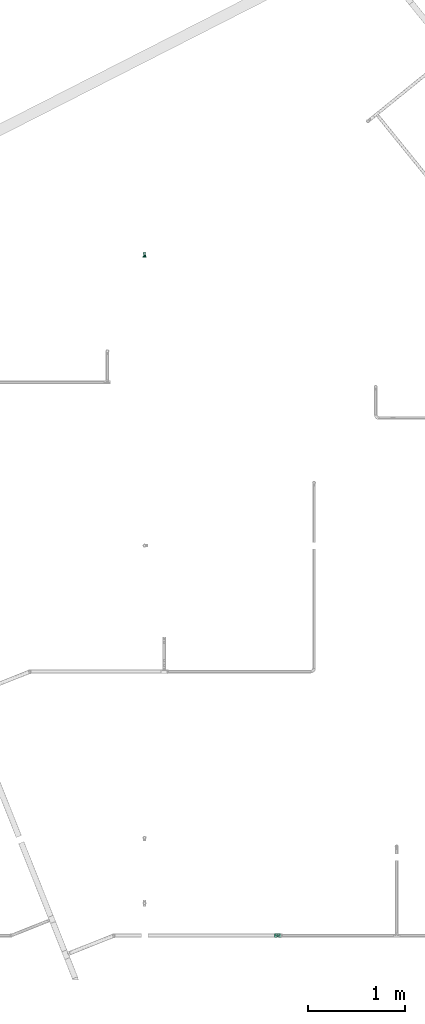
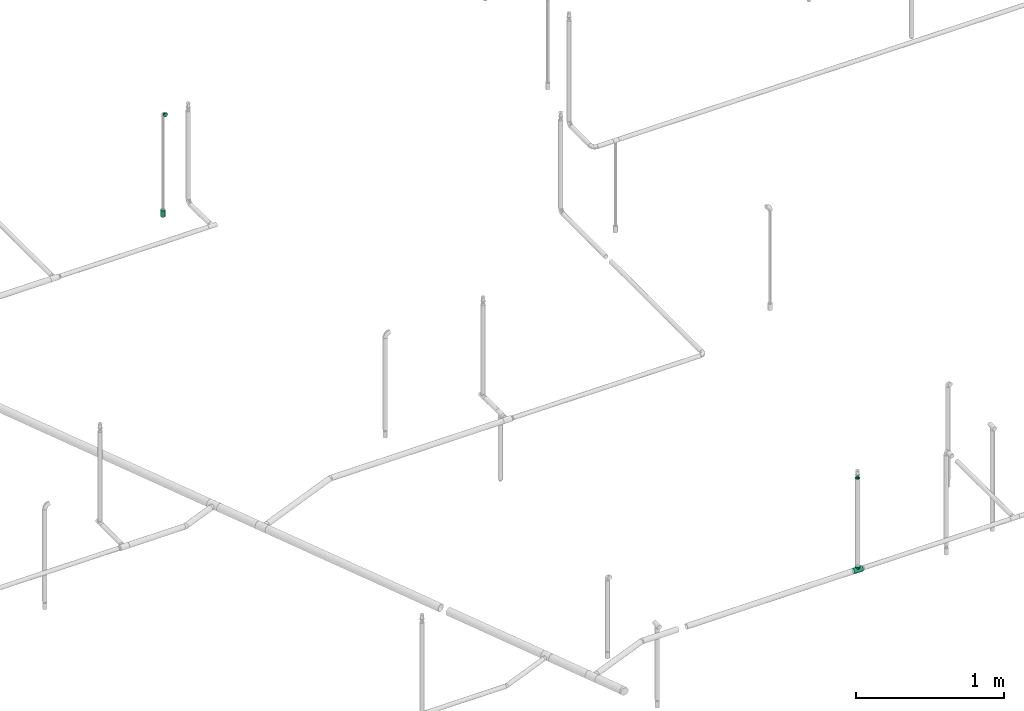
# One storey, part 49 of 94: 3 flow fittings, 1 flow terminal.
"""IFC2X3 building model written with IfcOpenShell, lengths in millimetres."""

from ifc_helpers import new_model, entity, si_unit, converted_unit, derived_unit, direction, frame, origin_with_axes, place, context, subcontext, project, spatial, open_shell, surface_model, source, transform, mapped, type_object, element, save


model = new_model("IFC2X3")

# Units and contexts
model_context = context("Model", 3, precision=0.01, world=frame((0.0, 4.29681676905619e-09, 0.0)), true_north=direction((4.01073788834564e-13, 1.0)))
plan_context = context("Plan", 3, precision=0.01, world=frame((0.0, 4.29681676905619e-09, 0.0)), true_north=direction((4.01073788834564e-13, 1.0)))
body_context = subcontext(model_context, "Body", "Model", "MODEL_VIEW")
ifc_project = project(units=[converted_unit("PLANEANGLEUNIT", "DEGREE", entity("IfcPositiveLengthMeasure", 0.0174532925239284), si_unit("PLANEANGLEUNIT", "RADIAN"), dimensions=[0, 0, 0, 0, 0, 0, 0]), si_unit("AREAUNIT", "SQUARE_METRE"), si_unit("LENGTHUNIT", "METRE", prefix="MILLI"), si_unit("MASSUNIT", "GRAM", prefix="KILO"), si_unit("POWERUNIT", "WATT"), si_unit("PRESSUREUNIT", "PASCAL", prefix="KILO"), si_unit("FORCEUNIT", "NEWTON", prefix="KILO"), si_unit("ELECTRICVOLTAGEUNIT", "VOLT"), si_unit("ELECTRICCURRENTUNIT", "AMPERE"), si_unit("THERMODYNAMICTEMPERATUREUNIT", "DEGREE_CELSIUS"), si_unit("TIMEUNIT", "SECOND"), si_unit("VOLUMEUNIT", "CUBIC_METRE"), derived_unit("LINEARVELOCITYUNIT", [(si_unit("LENGTHUNIT", "METRE"), 1), (si_unit("TIMEUNIT", "SECOND"), -1)]), derived_unit("VOLUMETRICFLOWRATEUNIT", [(si_unit("VOLUMEUNIT", "CUBIC_METRE"), 1), (si_unit("TIMEUNIT", "SECOND"), -1)]), derived_unit("THERMALTRANSMITTANCEUNIT", [(si_unit("POWERUNIT", "WATT"), 1), (si_unit("THERMODYNAMICTEMPERATUREUNIT", "KELVIN"), -1), (si_unit("AREAUNIT", "SQUARE_METRE"), -1)]), derived_unit("SOUNDPRESSUREUNIT", [(si_unit("PRESSUREUNIT", "PASCAL"), 1)])], contexts=[model_context, plan_context])

# Site, building, storey
site_placement = place(None, frame((0.0, -4.29681676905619e-09, 0.0), z_axis=(0.0, 0.0, 1.0), x_axis=(1.0, 0.0, 0.0)))
site = spatial("IfcSite", under=ifc_project, at=site_placement, CompositionType="ELEMENT")
building_placement = place(site_placement, frame((0.0, 4.29681676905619e-09, 0.0), z_axis=(0.0, 0.0, 1.0), x_axis=(1.0, 0.0, 0.0)))
building = spatial("IfcBuilding", under=site, at=building_placement, Name="mc-building", CompositionType="ELEMENT")
storey_placement = place(building_placement, frame((0.0, 0.0, 210900.0), z_axis=(0.0, 0.0, 1.0), x_axis=(1.0, 0.0, 0.0)))
storey = spatial("IfcBuildingStorey", under=building, at=storey_placement, Name="Nivå F", CompositionType="ELEMENT", Elevation=210900.0)

# Flow fittings
pipe_fitting_type_1 = type_object("IfcPipeFittingType", Name="magi_pipe_fe_tee_centric_90_NOR", PredefinedType="JUNCTION")
shared_shape_1 = source(origin_with_axes(), body_context, "Body", "SurfaceModel", [
    surface_model("IfcShellBasedSurfaceModel", [(-33.8, 0.0, -21.2), (-33.8, -5.48696, -20.47763), (-33.8, 5.48696, -20.47763), (-33.8, 10.6, -18.35974), (-33.8, 14.99066, -14.99066), (-33.8, -20.47763, 5.48696), (-33.8, 18.35974, -10.6), (-33.8, 10.6, 18.35974), (-33.8, -14.99066, -14.99066), (-33.8, -18.35974, -10.6), (-33.8, -10.6, -18.35974), (-33.8, -20.47763, -5.48696), (-33.8, -21.2, 0.0), (-33.8, 18.35974, 10.6), (-33.8, 20.47763, -5.48696), (-33.8, 20.47763, 5.48696), (-33.8, 21.2, 0.0), (-33.8, 14.99066, 14.99066), (-33.8, 5.48696, 20.47763), (-33.8, 0.0, 21.2), (-33.8, -18.35974, 10.6), (-33.8, -14.99066, 14.99066), (-33.8, -10.6, 18.35974), (-33.8, -5.48696, 20.47763), (33.8, 5.48696, -20.47763), (33.8, -5.48696, -20.47763), (33.8, 0.0, -21.2), (33.8, 14.99066, -14.99066), (33.8, 10.6, -18.35974), (33.8, 18.35974, -10.6), (33.8, 20.47763, -5.48696), (33.8, -21.2, 0.0), (33.8, -10.6, -18.35974), (33.8, -18.35974, -10.6), (33.8, -14.99066, -14.99066), (33.8, -20.47763, -5.48696), (33.8, -20.47763, 5.48696), (33.8, 21.2, 0.0), (33.8, 20.47763, 5.48696), (33.8, 18.35974, 10.6), (33.8, 10.6, 18.35974), (33.8, 14.99066, 14.99066), (33.8, 0.0, 21.2), (33.8, 5.48696, 20.47763), (33.8, -14.99066, 14.99066), (33.8, -18.35974, 10.6), (33.8, -10.6, 18.35974), (33.8, -5.48696, 20.47763), (16.9, -21.2, 0.0), (15.78624, -20.32327, 6.03364), (12.81343, -18.11115, 11.01935), (8.52479, -15.37862, 14.59239), (3.07939, -13.16482, 16.61708), (-16.9, -21.2, 0.0), (-15.78686, -20.32375, 6.032), (-8.52604, -15.37932, 14.59166), (-3.0848, -13.16609, 16.61608), (-12.81602, -18.11299, 11.01634), (3.07939, -13.16482, -16.61708), (12.81343, -18.11115, -11.01935), (8.52479, -15.37862, -14.59239), (15.78624, -20.32327, -6.03364), (-3.0848, -13.16609, -16.61608), (-8.52604, -15.37932, -14.59166), (-12.81602, -18.11299, -11.01634), (-15.78686, -20.32375, -6.032), (4.37404, -31.8, -16.32415), (-16.9, -31.8, 0.0), (0.0, -31.8, -16.9), (14.63583, -31.8, -8.45), (8.45, -31.8, -14.63583), (16.32415, -31.8, -4.37404), (11.9501, -31.8, -11.9501), (-11.9501, -31.8, -11.9501), (-8.45, -31.8, -14.63583), (-4.37404, -31.8, -16.32415), (-14.63583, -31.8, -8.45), (-16.32415, -31.8, -4.37404), (16.9, -31.8, 0.0), (8.45, -31.8, 14.63583), (16.32415, -31.8, 4.37404), (14.63583, -31.8, 8.45), (-8.45, -31.8, 14.63583), (11.9501, -31.8, 11.9501), (4.37404, -31.8, 16.32415), (-16.32415, -31.8, 4.37404), (-11.9501, -31.8, 11.9501), (-14.63583, -31.8, 8.45), (0.0, -31.8, 16.9), (-4.37404, -31.8, 16.32415), (-16.34343, -20.76188, 3.016), (16.34312, -20.76163, 3.01682), (-0.00271, -13.16546, 16.61658), (16.34312, -20.76163, -3.01682), (-0.00271, -13.16546, -16.61658), (-16.34343, -20.76188, -3.016)], [open_shell([[[0, 1, 2]], [[3, 2, 4]], [[5, 2, 1]], [[4, 2, 6]], [[6, 2, 7]], [[8, 9, 10]], [[1, 10, 9]], [[9, 11, 1]], [[12, 1, 11]], [[5, 1, 12]], [[13, 14, 6]], [[13, 15, 16]], [[6, 7, 13]], [[5, 7, 2]], [[17, 13, 7]], [[18, 7, 19]], [[20, 21, 5]], [[22, 5, 21]], [[23, 19, 22]], [[7, 5, 22]], [[22, 19, 7]], [[16, 14, 13]], [[24, 25, 26]], [[27, 24, 28]], [[29, 30, 24]], [[29, 24, 27]], [[31, 24, 30]], [[32, 33, 34]], [[33, 32, 25]], [[33, 31, 35]], [[31, 33, 25]], [[25, 24, 31]], [[30, 36, 31]], [[37, 38, 39]], [[37, 39, 40]], [[37, 40, 36]], [[40, 39, 41]], [[42, 40, 43]], [[36, 44, 45]], [[44, 36, 46]], [[46, 42, 47]], [[46, 36, 40]], [[40, 42, 46]], [[37, 36, 30]], [[31, 36, 48]], [[49, 48, 36]], [[36, 45, 49]], [[45, 44, 50]], [[51, 50, 44]], [[52, 51, 44]], [[44, 46, 52]], [[45, 50, 49]], [[53, 54, 5]], [[5, 12, 53]], [[54, 20, 5]], [[55, 56, 21]], [[20, 57, 21]], [[57, 20, 54]], [[21, 57, 55]], [[56, 22, 21]], [[52, 22, 56]], [[19, 47, 42]], [[23, 46, 47]], [[18, 42, 43]], [[39, 38, 15]], [[17, 40, 41]], [[13, 41, 39]], [[43, 40, 7]], [[16, 38, 37]], [[22, 46, 23]], [[23, 47, 19]], [[18, 19, 42]], [[43, 7, 18]], [[7, 40, 17]], [[13, 17, 41]], [[15, 13, 39]], [[38, 16, 15]], [[46, 22, 52]], [[6, 30, 29]], [[14, 37, 30]], [[4, 29, 27]], [[26, 25, 1]], [[2, 28, 24]], [[0, 24, 26]], [[27, 28, 3]], [[10, 25, 32]], [[16, 37, 14]], [[14, 30, 6]], [[4, 6, 29]], [[27, 3, 4]], [[3, 28, 2]], [[0, 2, 24]], [[1, 0, 26]], [[25, 10, 1]], [[32, 58, 10]], [[34, 59, 60]], [[59, 34, 33]], [[60, 58, 34]], [[34, 58, 32]], [[35, 31, 48]], [[35, 61, 33]], [[61, 35, 48]], [[33, 61, 59]], [[62, 63, 8]], [[8, 64, 9]], [[64, 8, 63]], [[62, 8, 10]], [[65, 53, 11]], [[65, 11, 9]], [[11, 53, 12]], [[65, 9, 64]], [[58, 62, 10]], [[66, 67, 68]], [[69, 66, 70]], [[69, 71, 66]], [[69, 70, 72]], [[67, 66, 71]], [[68, 73, 74]], [[74, 75, 68]], [[76, 67, 77]], [[73, 68, 76]], [[67, 76, 68]], [[71, 78, 67]], [[79, 78, 80]], [[79, 80, 81]], [[82, 67, 79]], [[79, 81, 83]], [[82, 79, 84]], [[85, 86, 87]], [[86, 85, 82]], [[82, 88, 89]], [[85, 67, 82]], [[84, 88, 82]], [[79, 67, 78]], [[85, 90, 67]], [[57, 87, 86]], [[85, 87, 54]], [[86, 82, 55]], [[85, 54, 90]], [[90, 53, 67]], [[54, 87, 57]], [[91, 49, 80]], [[55, 89, 56]], [[55, 57, 86]], [[88, 52, 92]], [[55, 82, 89]], [[52, 88, 84]], [[79, 51, 84]], [[50, 83, 81]], [[83, 51, 79]], [[81, 80, 49]], [[83, 50, 51]], [[51, 52, 84]], [[78, 91, 80]], [[49, 50, 81]], [[91, 78, 48]], [[88, 56, 89]], [[92, 56, 88]], [[71, 93, 78]], [[59, 69, 72]], [[71, 69, 61]], [[72, 70, 60]], [[93, 48, 78]], [[61, 69, 59]], [[60, 66, 58]], [[60, 59, 72]], [[68, 62, 94]], [[60, 70, 66]], [[95, 67, 53]], [[95, 65, 77]], [[71, 61, 93]], [[75, 62, 68]], [[65, 76, 77]], [[73, 76, 64]], [[68, 58, 66]], [[75, 63, 62]], [[63, 75, 74]], [[74, 73, 63]], [[63, 73, 64]], [[64, 76, 65]], [[67, 95, 77]], [[94, 58, 68]]])]),
])
flow_fitting_1_placement = place(storey_placement, frame((723368.83068, 435194.37907, 3600.0), z_axis=(0.0, -1.0, 0.0), x_axis=(-1.0, 0.0, 0.0)))
element("IfcFlowFitting", 1, at=flow_fitting_1_placement, inside=storey, type_object=pipe_fitting_type_1, Name="magi_pipe_fe_tee_centric_90_NOR", context=body_context, shape_type="MappedRepresentation", body=[
    mapped(shared_shape_1, transform((0.0, 0.0, 0.0), scale=1.0)),
])
pipe_fitting_type_2 = type_object("IfcPipeFittingType", Name="magi_pipe_fe_reducer_centric_short_NOR", PredefinedType="TRANSITION")
shared_shape_2 = source(origin_with_axes(), body_context, "Body", "SurfaceModel", [
    surface_model("IfcShellBasedSurfaceModel", [(14.4, 5.35, -9.26647), (14.4, 0.0, -10.7), (14.4, 2.76936, -10.33541), (14.4, 10.33541, -2.76936), (14.4, 7.56604, -7.56604), (14.4, -10.33541, -2.76936), (14.4, 9.26647, -5.35), (14.4, 0.0, 10.7), (14.4, -5.35, -9.26647), (14.4, -2.76936, -10.33541), (14.4, -7.56604, -7.56604), (14.4, -9.26647, -5.35), (14.4, 10.7, 0.0), (14.4, 10.33541, 2.76936), (14.4, 9.26647, 5.35), (14.4, 7.56604, 7.56604), (14.4, 2.76936, 10.33541), (14.4, 5.35, 9.26647), (14.4, -10.33541, 2.76936), (14.4, -7.56604, 7.56604), (14.4, -9.26647, 5.35), (14.4, -10.7, 0.0), (14.4, -2.76936, 10.33541), (14.4, -5.35, 9.26647), (12.4, 2.76936, 10.33541), (12.4, -10.33541, -2.76936), (12.4, 0.0, 10.7), (12.4, 5.35, 9.26647), (12.4, 7.56604, 7.56604), (12.4, 9.26647, 5.35), (12.4, 10.33541, 2.76936), (12.4, -10.33541, 2.76936), (12.4, -2.76936, 10.33541), (12.4, -7.56604, 7.56604), (12.4, -5.35, 9.26647), (12.4, -9.26647, 5.35), (12.4, -10.7, 0.0), (12.4, 10.33541, -2.76936), (12.4, 5.35, -9.26647), (12.4, 9.26647, -5.35), (12.4, 7.56604, -7.56604), (12.4, 2.76936, -10.33541), (12.4, -9.26647, -5.35), (12.4, -5.35, -9.26647), (12.4, -7.56604, -7.56604), (12.4, 0.0, -10.7), (12.4, -2.76936, -10.33541), (12.4, 10.7, 0.0), (-2.0, 11.9501, 11.9501), (-2.0, 0.0, 16.9), (-2.0, 4.37404, 16.32415), (-2.0, 8.45, 14.63583), (-2.0, 14.63583, 8.45), (-2.0, 16.32415, 4.37404), (-2.0, -16.32415, 4.37404), (-2.0, -8.45, 14.63583), (-2.0, -14.63583, 8.45), (-2.0, -11.9501, 11.9501), (-2.0, -4.37404, 16.32415), (-2.0, -16.32415, -4.37404), (-2.0, -16.9, 0.0), (-2.0, -8.45, -14.63583), (-2.0, 16.32415, -4.37404), (-2.0, 11.9501, -11.9501), (-2.0, 14.63583, -8.45), (-2.0, 8.45, -14.63583), (-2.0, 4.37404, -16.32415), (-2.0, 0.0, -16.9), (-2.0, -11.9501, -11.9501), (-2.0, -14.63583, -8.45), (-2.0, -4.37404, -16.32415), (-2.0, 16.9, 0.0), (0.0, 4.37404, -16.32415), (0.0, 8.45, -14.63583), (0.0, 11.9501, -11.9501), (0.0, 0.0, -16.9), (0.0, 16.32415, -4.37404), (0.0, 16.32415, 4.37404), (0.0, 14.63583, -8.45), (0.0, -8.45, -14.63583), (0.0, -4.37404, -16.32415), (0.0, -11.9501, -11.9501), (0.0, -16.32415, -4.37404), (0.0, -14.63583, -8.45), (0.0, -16.32415, 4.37404), (0.0, 16.9, 0.0), (0.0, 14.63583, 8.45), (0.0, 11.9501, 11.9501), (0.0, 4.37404, 16.32415), (0.0, 8.45, 14.63583), (0.0, 0.0, 16.9), (0.0, -14.63583, 8.45), (0.0, -16.9, 0.0), (0.0, -8.45, 14.63583), (0.0, -11.9501, 11.9501), (0.0, -4.37404, 16.32415), (12.4, 9.3625, -2.31662), (0.0, 14.42505, -5.97505), (0.0, 15.66253, -2.98753), (12.4, -6.6875, -6.94985), (0.0, -13.18758, -8.96258), (0.0, 2.98753, -15.66253), (12.4, 0.0, -9.26647), (12.4, 6.6875, -6.94985), (0.0, 8.96258, -13.18758), (12.4, -9.3625, -2.31662), (0.0, -15.66253, -2.98753), (0.0, -14.42505, -5.97505), (0.0, 5.97505, -14.42505), (0.0, -2.98753, -15.66253), (0.0, -8.96258, -13.18758), (0.0, 13.18758, -8.96258), (12.4, 8.025, -4.63324), (12.4, -2.675, -9.26647), (12.4, 2.675, -9.26647), (0.0, -5.97505, -14.42505), (12.4, -8.025, -4.63324), (12.4, -9.3625, 2.31662), (0.0, -14.42505, 5.97505), (0.0, -15.66253, 2.98753), (12.4, 6.6875, 6.94985), (0.0, 13.18758, 8.96258), (0.0, -2.98753, 15.66253), (12.4, 0.0, 9.26647), (12.4, -6.6875, 6.94985), (0.0, -8.96258, 13.18758), (12.4, 9.3625, 2.31662), (0.0, 15.66253, 2.98753), (0.0, 14.42505, 5.97505), (0.0, -5.97505, 14.42505), (0.0, 2.98753, 15.66253), (0.0, 8.96258, 13.18758), (0.0, -13.18758, 8.96258), (12.4, -8.025, 4.63324), (12.4, 2.675, 9.26647), (12.4, -2.675, 9.26647), (0.0, 5.97505, 14.42505), (12.4, 8.025, 4.63324)], [open_shell([[[0, 1, 2]], [[3, 0, 4]], [[5, 0, 3]], [[3, 4, 6]], [[7, 5, 3]], [[1, 8, 9]], [[1, 0, 8]], [[10, 5, 11]], [[5, 10, 8]], [[0, 5, 8]], [[3, 12, 13]], [[13, 14, 15]], [[13, 15, 16]], [[7, 3, 16]], [[16, 15, 17]], [[7, 18, 5]], [[18, 19, 20]], [[21, 5, 18]], [[19, 22, 23]], [[22, 19, 18]], [[7, 22, 18]], [[13, 16, 3]], [[24, 25, 26]], [[27, 25, 24]], [[28, 29, 30]], [[28, 25, 27]], [[31, 26, 25]], [[32, 33, 34]], [[33, 32, 31]], [[33, 31, 35]], [[32, 26, 31]], [[31, 25, 36]], [[30, 37, 28]], [[25, 28, 37]], [[38, 37, 39]], [[37, 38, 25]], [[38, 39, 40]], [[41, 25, 38]], [[42, 43, 44]], [[43, 42, 25]], [[43, 45, 46]], [[43, 25, 41]], [[41, 45, 43]], [[37, 30, 47]], [[25, 5, 36]], [[42, 11, 25]], [[8, 44, 43]], [[42, 44, 10]], [[9, 43, 46]], [[25, 11, 5]], [[5, 21, 36]], [[9, 8, 43]], [[10, 44, 8]], [[10, 11, 42]], [[1, 9, 46]], [[46, 45, 1]], [[41, 2, 45]], [[38, 0, 41]], [[6, 40, 39]], [[38, 40, 4]], [[3, 39, 37]], [[38, 4, 0]], [[0, 2, 41]], [[12, 3, 37]], [[6, 39, 3]], [[6, 4, 40]], [[47, 12, 37]], [[45, 2, 1]], [[30, 13, 47]], [[29, 14, 30]], [[17, 28, 27]], [[29, 28, 15]], [[16, 27, 24]], [[30, 14, 13]], [[13, 12, 47]], [[16, 17, 27]], [[15, 28, 17]], [[15, 14, 29]], [[7, 16, 24]], [[24, 26, 7]], [[32, 22, 26]], [[34, 23, 32]], [[20, 33, 35]], [[34, 33, 19]], [[18, 35, 31]], [[34, 19, 23]], [[23, 22, 32]], [[21, 18, 31]], [[20, 35, 18]], [[20, 19, 33]], [[36, 21, 31]], [[26, 22, 7]], [[48, 49, 50]], [[48, 50, 51]], [[48, 52, 53]], [[48, 53, 49]], [[49, 53, 54]], [[55, 56, 57]], [[55, 58, 49]], [[56, 55, 49]], [[49, 54, 56]], [[54, 59, 60]], [[54, 53, 61]], [[53, 62, 63]], [[63, 62, 64]], [[63, 65, 66]], [[61, 53, 63]], [[67, 63, 66]], [[59, 68, 69]], [[68, 59, 61]], [[61, 67, 70]], [[59, 54, 61]], [[63, 67, 61]], [[53, 71, 62]], [[72, 73, 74]], [[75, 72, 74]], [[74, 76, 77]], [[76, 74, 78]], [[74, 77, 79]], [[75, 79, 80]], [[75, 74, 79]], [[81, 82, 83]], [[82, 81, 79]], [[79, 84, 82]], [[77, 76, 85]], [[77, 86, 87]], [[77, 87, 88]], [[88, 84, 79]], [[88, 87, 89]], [[84, 88, 90]], [[90, 91, 84]], [[92, 82, 84]], [[91, 93, 94]], [[91, 90, 93]], [[93, 90, 95]], [[79, 77, 88]], [[59, 82, 60]], [[69, 83, 59]], [[79, 68, 61]], [[69, 68, 81]], [[80, 61, 70]], [[59, 83, 82]], [[82, 92, 60]], [[80, 79, 61]], [[81, 68, 79]], [[81, 83, 69]], [[75, 80, 70]], [[70, 67, 75]], [[66, 72, 67]], [[65, 73, 66]], [[78, 63, 64]], [[65, 63, 74]], [[76, 64, 62]], [[65, 74, 73]], [[73, 72, 66]], [[85, 76, 62]], [[78, 64, 76]], [[78, 74, 63]], [[71, 85, 62]], [[67, 72, 75]], [[53, 77, 71]], [[52, 86, 53]], [[89, 48, 51]], [[52, 48, 87]], [[88, 51, 50]], [[53, 86, 77]], [[77, 85, 71]], [[88, 89, 51]], [[87, 48, 89]], [[87, 86, 52]], [[90, 88, 50]], [[50, 49, 90]], [[58, 95, 49]], [[55, 93, 58]], [[91, 57, 56]], [[55, 57, 94]], [[84, 56, 54]], [[55, 94, 93]], [[93, 95, 58]], [[92, 84, 54]], [[91, 56, 84]], [[91, 94, 57]], [[60, 92, 54]], [[49, 95, 90]], [[27, 34, 47]], [[47, 34, 43]], [[43, 38, 47]], [[43, 34, 36]], [[90, 87, 94]], [[92, 94, 87]], [[87, 74, 92]], [[75, 92, 74]], [[81, 92, 75]], [[74, 87, 85]], [[96, 97, 98]], [[81, 99, 100]], [[101, 102, 75]], [[98, 85, 47]], [[74, 103, 104]], [[104, 103, 38]], [[105, 106, 107]], [[38, 108, 104]], [[102, 109, 75]], [[110, 99, 81]], [[47, 96, 98]], [[103, 111, 112]], [[109, 102, 113]], [[36, 92, 106]], [[102, 101, 114]], [[110, 115, 43]], [[96, 112, 97]], [[107, 116, 105]], [[36, 106, 105]], [[113, 115, 109]], [[43, 115, 113]], [[116, 107, 100]], [[108, 38, 114]], [[111, 103, 74]], [[111, 97, 112]], [[99, 110, 43]], [[116, 100, 99]], [[101, 108, 114]], [[117, 118, 119]], [[87, 120, 121]], [[122, 123, 90]], [[119, 92, 36]], [[94, 124, 125]], [[125, 124, 34]], [[126, 127, 128]], [[34, 129, 125]], [[123, 130, 90]], [[131, 120, 87]], [[36, 117, 119]], [[124, 132, 133]], [[130, 123, 134]], [[47, 85, 127]], [[123, 122, 135]], [[131, 136, 27]], [[117, 133, 118]], [[128, 137, 126]], [[47, 127, 126]], [[134, 136, 130]], [[27, 136, 134]], [[137, 128, 121]], [[129, 34, 135]], [[132, 124, 94]], [[132, 118, 133]], [[120, 131, 27]], [[137, 121, 120]], [[122, 129, 135]]])]),
])
flow_fitting_2_placement = place(storey_placement, frame((723368.83068, 435194.37907, 4357.64799999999), z_axis=(-0.000893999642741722, -0.99999960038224, 0.0), x_axis=(0.0, 0.0, 1.0)))
element("IfcFlowFitting", 2, at=flow_fitting_2_placement, inside=storey, type_object=pipe_fitting_type_2, Name="magi_pipe_fe_reducer_centric_short_NOR", context=body_context, shape_type="MappedRepresentation", body=[
    mapped(shared_shape_2, transform((0.0, 0.0, 0.0), scale=1.0)),
])
shared_shape_3 = source(origin_with_axes(), body_context, "Body", "SurfaceModel", [
    surface_model("IfcShellBasedSurfaceModel", [(-2.0, -7.56604, -7.56604), (-2.0, -10.33541, -2.76936), (-2.0, -5.35, -9.26647), (-2.0, 5.35, -9.26647), (-2.0, 10.33541, -2.76936), (-2.0, 7.56604, -7.56604), (12.4, 11.9501, 11.9501), (12.4, 0.0, 16.9), (12.4, 11.9501, -11.9501), (12.4, 16.9, 0.0), (0.0, -10.7, 0.0), (0.0, -5.35, 9.26647), (0.0, -5.35, -9.26647), (0.0, 10.7, 0.0), (12.4, 15.66253, -2.98753), (12.4, 8.96258, -13.18758), (0.0, 6.6875, -6.94985), (12.4, -15.66253, -2.98753), (12.4, -16.9, 0.0), (12.4, 5.97505, -14.42505), (0.0, 5.35, -9.26647), (12.4, 14.42505, -5.97505), (0.0, 8.025, -4.63324), (0.0, 9.3625, -2.31662), (0.0, -9.3625, -2.31662), (0.0, -8.025, -4.63324), (12.4, -14.42505, -5.97505), (12.4, 13.18758, -8.96258), (12.4, -13.18758, -8.96258), (12.4, -11.9501, -11.9501), (0.0, -6.6875, -6.94985), (12.4, -8.96258, -13.18758), (12.4, -5.97505, -14.42505), (12.4, -15.66253, 2.98753), (12.4, -8.96258, 13.18758), (0.0, -6.6875, 6.94985), (12.4, -11.9501, 11.9501), (12.4, 15.66253, 2.98753), (12.4, -5.97505, 14.42505), (12.4, -14.42505, 5.97505), (0.0, -8.025, 4.63324), (0.0, -9.3625, 2.31662), (0.0, 9.3625, 2.31662), (0.0, 8.025, 4.63324), (12.4, 14.42505, 5.97505), (12.4, -13.18758, 8.96258), (12.4, 13.18758, 8.96258), (0.0, 6.6875, 6.94985), (12.4, 8.96258, 13.18758), (0.0, 5.35, 9.26647), (12.4, 5.97505, 14.42505), (14.4, 4.37404, -16.32415), (14.4, 8.45, -14.63583), (14.4, 11.9501, -11.9501), (14.4, -8.45, -14.63583), (14.4, 16.32415, -4.37404), (14.4, 16.32415, 4.37404), (14.4, 14.63583, -8.45), (14.4, 0.0, -16.9), (14.4, -4.37404, -16.32415), (14.4, -11.9501, -11.9501), (14.4, -16.32415, -4.37404), (14.4, -14.63583, -8.45), (14.4, -16.32415, 4.37404), (14.4, 16.9, 0.0), (14.4, 14.63583, 8.45), (14.4, 11.9501, 11.9501), (14.4, 4.37404, 16.32415), (14.4, 8.45, 14.63583), (14.4, 0.0, 16.9), (14.4, -14.63583, 8.45), (14.4, -16.9, 0.0), (14.4, -8.45, 14.63583), (14.4, -11.9501, 11.9501), (14.4, -4.37404, 16.32415), (12.4, 4.37404, 16.32415), (12.4, -14.63583, 8.45), (12.4, 16.32415, 4.37404), (12.4, 8.45, 14.63583), (12.4, 14.63583, 8.45), (12.4, -8.45, 14.63583), (12.4, -4.37404, 16.32415), (12.4, -16.32415, 4.37404), (12.4, -16.32415, -4.37404), (12.4, -8.45, -14.63583), (12.4, 16.32415, -4.37404), (12.4, 14.63583, -8.45), (12.4, 8.45, -14.63583), (12.4, 4.37404, -16.32415), (12.4, 0.0, -16.9), (12.4, -14.63583, -8.45), (12.4, -4.37404, -16.32415), (-2.0, 2.76936, 10.33541), (-2.0, 0.0, 10.7), (-2.0, 5.35, 9.26647), (-2.0, 7.56604, 7.56604), (-2.0, 9.26647, 5.35), (-2.0, 10.33541, 2.76936), (-2.0, -10.33541, 2.76936), (-2.0, -2.76936, 10.33541), (-2.0, -7.56604, 7.56604), (-2.0, -5.35, 9.26647), (-2.0, -9.26647, 5.35), (-2.0, -10.7, 0.0), (-2.0, 9.26647, -5.35), (-2.0, 2.76936, -10.33541), (-2.0, -9.26647, -5.35), (-2.0, 0.0, -10.7), (-2.0, -2.76936, -10.33541), (-2.0, 10.7, 0.0), (0.0, 0.0, -10.7), (0.0, 2.76936, -10.33541), (0.0, 10.33541, -2.76936), (0.0, 7.56604, -7.56604), (0.0, -10.33541, -2.76936), (0.0, 9.26647, -5.35), (0.0, 0.0, 10.7), (0.0, -2.76936, -10.33541), (0.0, -7.56604, -7.56604), (0.0, -9.26647, -5.35), (0.0, 10.33541, 2.76936), (0.0, 9.26647, 5.35), (0.0, 7.56604, 7.56604), (0.0, 2.76936, 10.33541), (0.0, -7.56604, 7.56604), (0.0, -10.33541, 2.76936), (0.0, -9.26647, 5.35), (0.0, -2.76936, 10.33541), (0.0, 2.675, -9.26647), (0.0, -2.675, -9.26647), (12.4, 2.98753, -15.66253), (0.0, 0.0, -9.26647), (12.4, -2.98753, -15.66253), (0.0, -2.675, 9.26647), (0.0, 2.675, 9.26647), (12.4, -2.98753, 15.66253), (0.0, 0.0, 9.26647), (12.4, 2.98753, 15.66253)], [open_shell([[[0, 1, 2]], [[3, 4, 5]], [[6, 7, 8]], [[8, 9, 6]], [[10, 11, 12]], [[13, 9, 14]], [[15, 16, 8]], [[17, 18, 10]], [[15, 19, 20]], [[21, 22, 23]], [[24, 25, 26]], [[22, 21, 27]], [[28, 26, 25]], [[29, 30, 31]], [[12, 32, 31]], [[10, 18, 33]], [[34, 35, 36]], [[37, 9, 13]], [[34, 38, 11]], [[39, 40, 41]], [[42, 43, 44]], [[40, 39, 45]], [[46, 44, 43]], [[6, 47, 48]], [[49, 50, 48]], [[51, 52, 53]], [[54, 51, 53]], [[53, 55, 56]], [[55, 53, 57]], [[53, 56, 54]], [[58, 54, 59]], [[58, 51, 54]], [[60, 61, 62]], [[61, 60, 54]], [[54, 63, 61]], [[56, 55, 64]], [[56, 65, 66]], [[56, 66, 67]], [[67, 63, 54]], [[67, 66, 68]], [[63, 67, 69]], [[69, 70, 63]], [[71, 61, 63]], [[70, 72, 73]], [[70, 69, 72]], [[72, 69, 74]], [[54, 56, 67]], [[75, 76, 7]], [[77, 75, 78]], [[6, 79, 77]], [[6, 77, 78]], [[76, 75, 77]], [[80, 76, 36]], [[80, 81, 7]], [[7, 76, 80]], [[82, 76, 77]], [[82, 83, 18]], [[82, 77, 84]], [[77, 85, 8]], [[8, 85, 86]], [[8, 87, 88]], [[84, 77, 8]], [[88, 89, 8]], [[83, 29, 90]], [[29, 83, 84]], [[84, 89, 91]], [[83, 82, 84]], [[8, 89, 84]], [[85, 77, 9]], [[83, 61, 18]], [[90, 62, 83]], [[54, 29, 84]], [[90, 29, 60]], [[59, 84, 91]], [[83, 62, 61]], [[61, 71, 18]], [[59, 54, 84]], [[60, 29, 54]], [[60, 62, 90]], [[58, 59, 91]], [[91, 89, 58]], [[88, 51, 89]], [[87, 52, 88]], [[57, 8, 86]], [[87, 8, 53]], [[55, 86, 85]], [[87, 53, 52]], [[52, 51, 88]], [[64, 55, 85]], [[57, 86, 55]], [[57, 53, 8]], [[9, 64, 85]], [[89, 51, 58]], [[77, 56, 9]], [[79, 65, 77]], [[68, 6, 78]], [[79, 6, 66]], [[67, 78, 75]], [[77, 65, 56]], [[56, 64, 9]], [[67, 68, 78]], [[66, 6, 68]], [[66, 65, 79]], [[69, 67, 75]], [[75, 7, 69]], [[81, 74, 7]], [[80, 72, 81]], [[70, 36, 76]], [[80, 36, 73]], [[63, 76, 82]], [[80, 73, 72]], [[72, 74, 81]], [[71, 63, 82]], [[70, 76, 63]], [[70, 73, 36]], [[18, 71, 82]], [[7, 74, 69]], [[92, 1, 93]], [[94, 1, 92]], [[95, 96, 97]], [[95, 97, 94]], [[98, 93, 1]], [[99, 100, 101]], [[99, 93, 100]], [[100, 98, 102]], [[93, 98, 100]], [[98, 1, 103]], [[94, 97, 1]], [[1, 97, 4]], [[5, 4, 104]], [[4, 3, 1]], [[105, 1, 3]], [[1, 0, 106]], [[2, 107, 108]], [[2, 1, 105]], [[105, 107, 2]], [[4, 97, 109]], [[20, 110, 111]], [[112, 20, 113]], [[114, 20, 112]], [[112, 113, 115]], [[116, 114, 112]], [[110, 12, 117]], [[110, 20, 12]], [[118, 114, 119]], [[114, 118, 12]], [[20, 114, 12]], [[112, 13, 120]], [[120, 121, 122]], [[120, 122, 123]], [[116, 112, 123]], [[123, 122, 49]], [[116, 124, 114]], [[125, 124, 126]], [[10, 114, 125]], [[124, 127, 11]], [[125, 114, 124]], [[127, 124, 116]], [[123, 112, 120]], [[1, 114, 103]], [[106, 119, 1]], [[12, 0, 2]], [[106, 0, 118]], [[117, 2, 108]], [[1, 119, 114]], [[114, 10, 103]], [[117, 12, 2]], [[118, 0, 12]], [[118, 119, 106]], [[110, 117, 108]], [[108, 107, 110]], [[105, 111, 107]], [[3, 20, 105]], [[115, 5, 104]], [[3, 5, 113]], [[112, 104, 4]], [[3, 113, 20]], [[20, 111, 105]], [[13, 112, 4]], [[115, 104, 112]], [[115, 113, 5]], [[109, 13, 4]], [[107, 111, 110]], [[97, 120, 109]], [[96, 121, 97]], [[49, 95, 94]], [[96, 95, 122]], [[123, 94, 92]], [[97, 121, 120]], [[120, 13, 109]], [[123, 49, 94]], [[122, 95, 49]], [[122, 121, 96]], [[116, 123, 92]], [[92, 93, 116]], [[99, 127, 93]], [[101, 11, 99]], [[126, 100, 102]], [[101, 100, 124]], [[125, 102, 98]], [[101, 124, 11]], [[11, 127, 99]], [[10, 125, 98]], [[126, 102, 125]], [[126, 124, 100]], [[103, 10, 98]], [[93, 127, 116]], [[18, 7, 36]], [[18, 29, 8]], [[89, 8, 29]], [[18, 8, 7]], [[13, 11, 49]], [[13, 20, 12]], [[13, 12, 11]], [[24, 26, 17]], [[10, 24, 17]], [[16, 15, 20]], [[30, 12, 31]], [[23, 14, 21]], [[19, 128, 20]], [[27, 8, 16]], [[32, 12, 129]], [[30, 28, 25]], [[130, 131, 128]], [[129, 132, 32]], [[16, 22, 27]], [[13, 14, 23]], [[128, 19, 130]], [[130, 89, 131]], [[131, 132, 129]], [[89, 132, 131]], [[28, 30, 29]], [[42, 44, 37]], [[13, 42, 37]], [[35, 34, 11]], [[47, 49, 48]], [[41, 33, 39]], [[38, 133, 11]], [[45, 36, 35]], [[50, 49, 134]], [[47, 46, 43]], [[135, 136, 133]], [[134, 137, 50]], [[35, 40, 45]], [[10, 33, 41]], [[133, 38, 135]], [[135, 7, 136]], [[136, 137, 134]], [[7, 137, 136]], [[46, 47, 6]]])]),
])
flow_fitting_3_placement = place(storey_placement, frame((722000.0, 442179.3, 3600.0), z_axis=(0.0, 0.0, 1.0), x_axis=(0.0, -1.0, 0.0)))
element("IfcFlowFitting", 3, at=flow_fitting_3_placement, inside=storey, type_object=pipe_fitting_type_2, Name="magi_pipe_fe_reducer_centric_short_NOR", context=body_context, shape_type="MappedRepresentation", body=[
    mapped(shared_shape_3, transform((0.0, 0.0, 0.0), scale=1.0)),
])

# Flow terminal
fire_suppression_terminal_type = type_object("IfcFireSuppressionTerminalType", Name="SP-15-K80-68DGR-STD-HIMLING", PredefinedType="NOTDEFINED")
shared_shape_4 = source(origin_with_axes(), body_context, "Body", "SurfaceModel", [
    surface_model("IfcShellBasedSurfaceModel", [(4.1411, -15.45481, 53.0), (8.0, -13.85641, 53.0), (11.31371, -11.31371, 53.0), (-8.0, -13.85641, 53.0), (15.45481, -4.1411, 53.0), (16.0, 0.0, 53.0), (13.85641, -8.0, 53.0), (0.0, -16.0, 53.0), (-4.1411, -15.45481, 53.0), (-13.85641, -8.0, 53.0), (-11.31371, -11.31371, 53.0), (-15.45481, -4.1411, 53.0), (15.45481, 4.1411, 53.0), (13.85641, 8.0, 53.0), (11.31371, 11.31371, 53.0), (-4.1411, 15.45481, 53.0), (8.0, 13.85641, 53.0), (4.1411, 15.45481, 53.0), (0.0, 16.0, 53.0), (-13.85641, 8.0, 53.0), (-15.45481, 4.1411, 53.0), (-16.0, 0.0, 53.0), (-11.31371, 11.31371, 53.0), (-8.0, 13.85641, 53.0), (0.0, 16.0, 0.0), (4.1411, 15.45481, 0.0), (8.0, 13.85641, 0.0), (-4.1411, 15.45481, 0.0), (11.31371, 11.31371, 0.0), (13.85641, 8.0, 0.0), (15.45481, 4.1411, 0.0), (-15.45481, -4.1411, 0.0), (-11.31371, 11.31371, 0.0), (-8.0, 13.85641, 0.0), (-13.85641, 8.0, 0.0), (-15.45481, 4.1411, 0.0), (-16.0, 0.0, 0.0), (4.1411, -15.45481, 0.0), (16.0, 0.0, 0.0), (15.45481, -4.1411, 0.0), (13.85641, -8.0, 0.0), (11.31371, -11.31371, 0.0), (8.0, -13.85641, 0.0), (-8.0, -13.85641, 0.0), (-13.85641, -8.0, 0.0), (-11.31371, -11.31371, 0.0), (0.0, -16.0, 0.0), (-4.1411, -15.45481, 0.0)], [open_shell([[[0, 1, 2]], [[3, 0, 2]], [[4, 5, 2]], [[4, 2, 6]], [[3, 2, 5]], [[7, 3, 8]], [[7, 0, 3]], [[3, 9, 10]], [[9, 3, 11]], [[5, 11, 3]], [[5, 12, 11]], [[12, 13, 14]], [[15, 12, 14]], [[16, 17, 18]], [[14, 16, 15]], [[18, 15, 16]], [[11, 19, 20]], [[21, 11, 20]], [[22, 15, 23]], [[15, 22, 19]], [[19, 11, 15]], [[11, 12, 15]], [[24, 25, 26]], [[27, 24, 26]], [[28, 29, 30]], [[27, 26, 28]], [[27, 28, 31]], [[27, 32, 33]], [[32, 27, 34]], [[34, 31, 35]], [[31, 34, 27]], [[35, 31, 36]], [[28, 30, 31]], [[37, 38, 39]], [[37, 39, 40]], [[41, 42, 37]], [[41, 37, 40]], [[38, 37, 43]], [[44, 43, 45]], [[43, 44, 31]], [[43, 46, 47]], [[43, 31, 38]], [[37, 46, 43]], [[38, 31, 30]], [[11, 31, 44]], [[45, 9, 44]], [[3, 43, 47]], [[45, 43, 10]], [[8, 47, 46]], [[31, 21, 36]], [[31, 11, 21]], [[44, 9, 11]], [[45, 10, 9]], [[3, 10, 43]], [[47, 8, 3]], [[46, 7, 8]], [[0, 37, 42]], [[41, 1, 42]], [[6, 40, 39]], [[41, 40, 2]], [[4, 39, 38]], [[37, 0, 7]], [[42, 1, 0]], [[41, 2, 1]], [[40, 6, 2]], [[4, 6, 39]], [[38, 5, 4]], [[37, 7, 46]], [[12, 38, 30]], [[13, 30, 29]], [[16, 26, 25]], [[17, 25, 24]], [[30, 13, 12]], [[12, 5, 38]], [[28, 14, 13]], [[28, 26, 14]], [[14, 26, 16]], [[25, 17, 16]], [[28, 13, 29]], [[24, 18, 17]], [[15, 27, 33]], [[32, 23, 33]], [[19, 34, 35]], [[32, 34, 22]], [[20, 35, 36]], [[27, 15, 18]], [[33, 23, 15]], [[32, 22, 23]], [[34, 19, 22]], [[20, 19, 35]], [[36, 21, 20]], [[27, 18, 24]]])]),
])
flow_terminal_placement = place(storey_placement, frame((722000.0, 442200.7, 2797.53873999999), z_axis=(0.0, 0.0, -1.0), x_axis=(-1.0, 0.0, 0.0)))
element("IfcFlowTerminal", 4, at=flow_terminal_placement, inside=storey, type_object=fire_suppression_terminal_type, Name="SP-15-K80-68DGR-STD-HIMLING", context=body_context, shape_type="MappedRepresentation", body=[
    mapped(shared_shape_4, transform((0.0, 0.0, 0.0), scale=1.0)),
])

save(model, "model.ifc")
